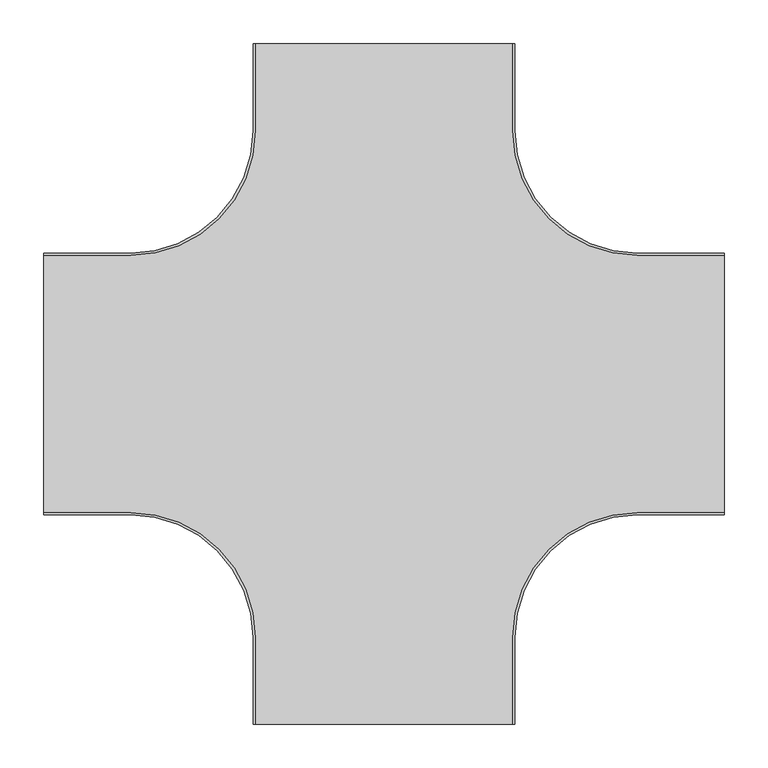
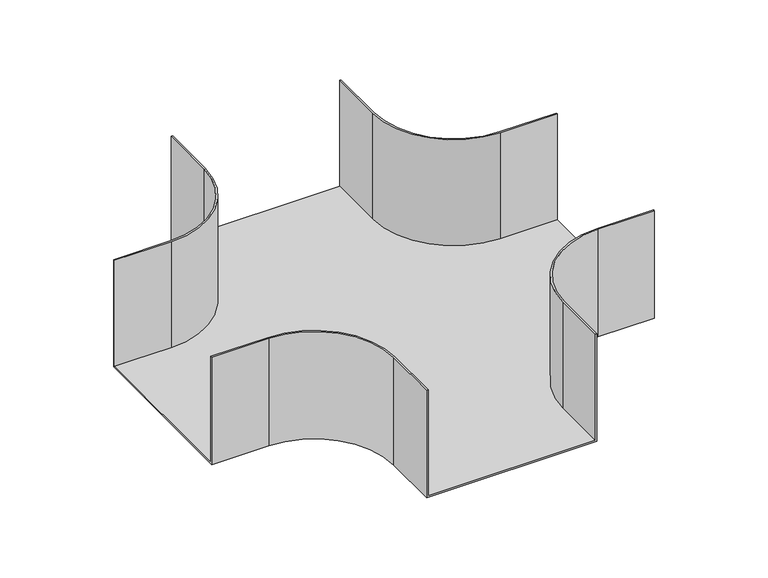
"""IFC4 building model written with IfcOpenShell, lengths in millimetres: cable carrier fitting geometry, BAKS_Cross-section_CZKZ : CZKZCH200."""

from ifc_helpers import new_model, si_unit, frame, origin, place, context, project, spatial, polyline, circle_curve, source, transform, mapped, element, save
from ifc_brep_helpers import plane_surface, cylinder_surface, revolved_surface, advanced_brep


def cable_carrier_fitting_6664680e(model_context):
    return source(origin(), model_context, "Body", "AdvancedBrep", [
        advanced_brep(
        [(-150.0, -290.0, 100.0), (-150.0, -390.0, 100.0), (-147.46, -390.0, 100.0), (-147.46, -290.0, 100.0), (-290.0, -147.46, 100.0), (-390.0, -147.46, 100.0), (-390.0, -150.0, 100.0), (-290.0, -150.0, 100.0), (150.0, -290.0, 100.0), (290.0, -150.0, 100.0), (390.0, -150.0, 100.0), (390.0, -147.46, 100.0), (290.0, -147.46, 100.0), (147.46, -290.0, 100.0), (147.46, -390.0, 100.0), (150.0, -390.0, 100.0), (-290.0, 150.0, 100.0), (-390.0, 150.0, 100.0), (-390.0, 147.46, 100.0), (-290.0, 147.46, 100.0), (-147.46, 290.0, 100.0), (-147.46, 390.0, 100.0), (-150.0, 390.0, 100.0), (-150.0, 290.0, 100.0), (147.46, 290.0, 100.0), (290.0, 147.46, 100.0), (390.0, 147.46, 100.0), (390.0, 150.0, 100.0), (290.0, 150.0, 100.0), (150.0, 290.0, 100.0), (150.0, 390.0, 100.0), (147.46, 390.0, 100.0), (-150.0, -290.0, -100.0), (-290.0, -150.0, -100.0), (-390.0, -150.0, -100.0), (-390.0, 150.0, -100.0), (-290.0, 150.0, -100.0), (-150.0, 290.0, -100.0), (-150.0, 390.0, -100.0), (150.0, 390.0, -100.0), (150.0, 290.0, -100.0), (290.0, 150.0, -100.0), (390.0, 150.0, -100.0), (390.0, -150.0, -100.0), (290.0, -150.0, -100.0), (150.0, -290.0, -100.0), (150.0, -390.0, -100.0), (-150.0, -390.0, -100.0), (-150.0, -290.0, -97.46), (147.46, -390.0, -97.46), (-147.46, -390.0, -97.46), (-147.46, -290.0, -97.46), (-290.0, -147.46, -97.46), (-390.0, -147.46, -97.46), (-390.0, 147.46, -97.46), (-290.0, -150.0, -97.46), (150.0, -290.0, -97.46), (290.0, -150.0, -97.46), (390.0, 147.46, -97.46), (390.0, -147.46, -97.46), (290.0, -147.46, -97.46), (147.46, -290.0, -97.46), (290.0, 147.46, -97.46), (147.46, 290.0, -97.46), (147.46, 390.0, -97.46), (-147.46, 390.0, -97.46), (-147.46, 290.0, -97.46), (-290.0, 147.46, -97.46), (-290.0, 150.0, -97.46), (-150.0, 290.0, -97.46), (290.0, 150.0, -97.46), (150.0, 290.0, -97.46)],
        [
            (0, 1),
            (1, 2),
            (2, 3),
            (3, 4, circle_curve(frame((-290.0, -290.0, 100.0), z_axis=(0.0, 0.0, 1.0), x_axis=(1.0, 0.0, 0.0)), 142.54)),
            (4, 5),
            (5, 6),
            (6, 7),
            (7, 0, circle_curve(frame((-290.0, -290.0, 100.0), z_axis=(0.0, 0.0, -1.0), x_axis=(1.0, 0.0, 0.0)), 140.0)),
            (8, 9, circle_curve(frame((290.0, -290.0, 100.0), z_axis=(0.0, 0.0, -1.0), x_axis=(1.0, 0.0, 0.0)), 140.0)),
            (9, 10),
            (10, 11),
            (11, 12),
            (12, 13, circle_curve(frame((290.0, -290.0, 100.0), z_axis=(0.0, 0.0, 1.0), x_axis=(1.0, 0.0, 0.0)), 142.54)),
            (13, 14),
            (14, 15),
            (15, 8),
            (16, 17),
            (17, 18),
            (18, 19),
            (19, 20, circle_curve(frame((-290.0, 290.0, 100.0), z_axis=(0.0, 0.0, 1.0), x_axis=(1.0, 0.0, 0.0)), 142.54)),
            (20, 21),
            (21, 22),
            (22, 23),
            (23, 16, circle_curve(frame((-290.0, 290.0, 100.0), z_axis=(0.0, 0.0, -1.0), x_axis=(1.0, 0.0, 0.0)), 140.0)),
            (24, 25, circle_curve(frame((290.0, 290.0, 100.0), z_axis=(0.0, 0.0, 1.0), x_axis=(1.0, 0.0, 0.0)), 142.54)),
            (25, 26),
            (26, 27),
            (27, 28),
            (28, 29, circle_curve(frame((290.0, 290.0, 100.0), z_axis=(0.0, 0.0, -1.0), x_axis=(1.0, 0.0, 0.0)), 140.0)),
            (29, 30),
            (30, 31),
            (31, 24),
            (32, 33, circle_curve(frame((-290.0, -290.0, -100.0), z_axis=(0.0, 0.0, 1.0), x_axis=(1.0, 0.0, 0.0)), 140.0)),
            (33, 34),
            (34, 35),
            (35, 36),
            (36, 37, circle_curve(frame((-290.0, 290.0, -100.0), z_axis=(0.0, 0.0, 1.0), x_axis=(1.0, 0.0, 0.0)), 140.0)),
            (37, 38),
            (38, 39),
            (39, 40),
            (40, 41, circle_curve(frame((290.0, 290.0, -100.0), z_axis=(0.0, 0.0, 1.0), x_axis=(1.0, 0.0, 0.0)), 140.0)),
            (41, 42),
            (42, 43),
            (43, 44),
            (44, 45, circle_curve(frame((290.0, -290.0, -100.0), z_axis=(0.0, 0.0, 1.0), x_axis=(1.0, 0.0, 0.0)), 140.0)),
            (45, 46),
            (46, 47),
            (47, 32),
            (47, 1),
            (0, 48),
            (48, 32),
            (46, 15),
            (14, 49),
            (49, 50),
            (50, 2),
            (50, 51),
            (51, 3),
            (51, 52, circle_curve(frame((-290.0, -290.0, -97.46), z_axis=(0.0, 0.0, 1.0), x_axis=(1.0, 0.0, 0.0)), 142.54)),
            (52, 4),
            (52, 53),
            (53, 5),
            (53, 54),
            (54, 18),
            (17, 35),
            (34, 6),
            (33, 55),
            (55, 7),
            (8, 56),
            (56, 45),
            (44, 57),
            (57, 9),
            (43, 10),
            (42, 27),
            (26, 58),
            (58, 59),
            (59, 11),
            (59, 60),
            (60, 12),
            (60, 61, circle_curve(frame((290.0, -290.0, -97.46), z_axis=(0.0, 0.0, 1.0), x_axis=(1.0, 0.0, 0.0)), 142.54)),
            (61, 13),
            (61, 49),
            (58, 62),
            (62, 63, circle_curve(frame((290.0, 290.0, -97.46), z_axis=(0.0, 0.0, -1.0), x_axis=(1.0, 0.0, 0.0)), 142.54)),
            (63, 64),
            (64, 65),
            (65, 66),
            (66, 67, circle_curve(frame((-290.0, 290.0, -97.46), z_axis=(0.0, 0.0, -1.0), x_axis=(1.0, 0.0, 0.0)), 142.54)),
            (67, 54),
            (16, 68),
            (68, 36),
            (67, 19),
            (66, 20),
            (65, 21),
            (64, 31),
            (30, 39),
            (38, 22),
            (37, 69),
            (69, 23),
            (24, 63),
            (62, 25),
            (41, 70),
            (70, 28),
            (40, 71),
            (71, 29),
        ],
        [
            plane_surface(frame((-150.0, -290.0, 100.0), z_axis=(0.0, 0.0, 1.0), x_axis=(0.0, -1.0, 0.0))),
            plane_surface(frame((-150.0, -290.0, -100.0), z_axis=(0.0, 0.0, -1.0), x_axis=(0.0, 1.0, 0.0))),
            plane_surface(frame((-150.0, -290.0, 100.0), z_axis=(-1.0, 0.0, 0.0), x_axis=(0.0, 0.0, -1.0))),
            plane_surface(frame((-150.0, -390.0, 100.0), z_axis=(0.0, -1.0, 0.0), x_axis=(0.0, 0.0, -1.0))),
            plane_surface(frame((-147.46, -390.0, 100.0), z_axis=(1.0, 0.0, 0.0), x_axis=(0.0, 0.0, -1.0))),
            cylinder_surface(frame((-290.0, -290.0, -100.0), z_axis=(0.0, 0.0, 1.0), x_axis=(1.0, 0.0, 0.0)), 142.54),
            plane_surface(frame((-290.0, -147.46, 100.0), z_axis=(0.0, 1.0, 0.0), x_axis=(0.0, 0.0, -1.0))),
            plane_surface(frame((-390.0, -147.46, 100.0), z_axis=(-1.0, 0.0, 0.0), x_axis=(0.0, 0.0, -1.0))),
            plane_surface(frame((-390.0, -150.0, 100.0), z_axis=(0.0, -1.0, 0.0), x_axis=(0.0, 0.0, -1.0))),
            revolved_surface(polyline([(-150.0, -290.0, -100.0), (-150.0, -290.0, 100.0)]), (-290.0, -290.0, -100.0), (0.0, 0.0, -1.0)),
            revolved_surface(polyline([(430.0, -290.0, -100.0), (430.0, -290.0, 100.0)]), (290.0, -290.0, 0.0), (0.0, 0.0, -1.0)),
            plane_surface(frame((290.0, -150.0, 100.0), z_axis=(0.0, -1.0, 0.0), x_axis=(0.0, 0.0, -1.0))),
            plane_surface(frame((390.0, -150.0, 100.0), z_axis=(1.0, 0.0, 0.0), x_axis=(0.0, 0.0, -1.0))),
            plane_surface(frame((390.0, -147.46, 100.0), z_axis=(0.0, 1.0, 0.0), x_axis=(0.0, 0.0, -1.0))),
            cylinder_surface(frame((290.0, -290.0, 0.0), z_axis=(0.0, 0.0, 1.0), x_axis=(1.0, 0.0, 0.0)), 142.54),
            plane_surface(frame((147.46, -290.0, 100.0), z_axis=(-1.0, 0.0, 0.0), x_axis=(0.0, 0.0, -1.0))),
            plane_surface(frame((150.0, -390.0, 100.0), z_axis=(1.0, 0.0, 0.0), x_axis=(0.0, 0.0, -1.0))),
            plane_surface(frame((-150.0, -290.0, -97.46), z_axis=(0.0, 0.0, 1.0), x_axis=(0.0, -1.0, 0.0))),
            plane_surface(frame((-290.0, 150.0, 100.0), z_axis=(0.0, 1.0, 0.0), x_axis=(0.0, 0.0, -1.0))),
            plane_surface(frame((-390.0, 147.46, 100.0), z_axis=(0.0, -1.0, 0.0), x_axis=(0.0, 0.0, -1.0))),
            cylinder_surface(frame((-290.0, 290.0, 0.0), z_axis=(0.0, 0.0, 1.0), x_axis=(1.0, 0.0, 0.0)), 142.54),
            plane_surface(frame((-147.46, 290.0, 100.0), z_axis=(1.0, 0.0, 0.0), x_axis=(0.0, 0.0, -1.0))),
            plane_surface(frame((-147.46, 390.0, 100.0), z_axis=(0.0, 1.0, 0.0), x_axis=(0.0, 0.0, -1.0))),
            plane_surface(frame((-150.0, 390.0, 100.0), z_axis=(-1.0, 0.0, 0.0), x_axis=(0.0, 0.0, -1.0))),
            revolved_surface(polyline([(-150.0, 290.0, -100.0), (-150.0, 290.0, 100.0)]), (-290.0, 290.0, 0.0), (0.0, 0.0, -1.0)),
            cylinder_surface(frame((290.0, 290.0, 0.0), z_axis=(0.0, 0.0, 1.0), x_axis=(1.0, 0.0, 0.0)), 142.54),
            plane_surface(frame((290.0, 147.46, 100.0), z_axis=(0.0, -1.0, 0.0), x_axis=(0.0, 0.0, -1.0))),
            plane_surface(frame((390.0, 150.0, 100.0), z_axis=(0.0, 1.0, 0.0), x_axis=(0.0, 0.0, -1.0))),
            revolved_surface(polyline([(430.0, 290.0, -100.0), (430.0, 290.0, 100.0)]), (290.0, 290.0, 0.0), (0.0, 0.0, -1.0)),
            plane_surface(frame((150.0, 290.0, 100.0), z_axis=(1.0, 0.0, 0.0), x_axis=(0.0, 0.0, -1.0))),
            plane_surface(frame((147.46, 390.0, 100.0), z_axis=(-1.0, 0.0, 0.0), x_axis=(0.0, 0.0, -1.0))),
        ],
        [
            (0, [[1, 2, 3, 4, 5, 6, 7, 8]]),
            (0, [[9, 10, 11, 12, 13, 14, 15, 16]]),
            (0, [[17, 18, 19, 20, 21, 22, 23, 24]]),
            (0, [[25, 26, 27, 28, 29, 30, 31, 32]]),
            (1, [[33, 34, 35, 36, 37, 38, 39, 40, 41, 42, 43, 44, 45, 46, 47, 48]]),
            (2, [[49, -1, 50, 51, -48]]),
            (3, [[-2, -49, -47, 52, -15, 53, 54, 55]]),
            (4, [[-3, -55, 56, 57]]),
            (5, [[-4, -57, 58, 59]]),
            (6, [[-5, -59, 60, 61]]),
            (7, [[-6, -61, 62, 63, -18, 64, -35, 65]]),
            (8, [[-7, -65, -34, 66, 67]]),
            (9, [[-8, -67, -66, -33, -51, -50]]),
            (10, [[-9, 68, 69, -45, 70, 71]]),
            (11, [[72, -10, -71, -70, -44]]),
            (12, [[-11, -72, -43, 73, -27, 74, 75, 76]]),
            (13, [[-12, -76, 77, 78]]),
            (14, [[-13, -78, 79, 80]]),
            (15, [[-14, -80, 81, -53]]),
            (16, [[-16, -52, -46, -69, -68]]),
            (17, [[-54, -81, -79, -77, -75, 82, 83, 84, 85, 86, 87, 88, -62, -60, -58, -56]]),
            (18, [[-64, -17, 89, 90, -36]]),
            (19, [[-19, -63, -88, 91]]),
            (20, [[-20, -91, -87, 92]]),
            (21, [[-21, -92, -86, 93]]),
            (22, [[-22, -93, -85, 94, -31, 95, -39, 96]]),
            (23, [[-23, -96, -38, 97, 98]]),
            (24, [[-24, -98, -97, -37, -90, -89]]),
            (25, [[-25, 99, -83, 100]]),
            (26, [[-26, -100, -82, -74]]),
            (27, [[-28, -73, -42, 101, 102]]),
            (28, [[-29, -102, -101, -41, 103, 104]]),
            (29, [[-95, -30, -104, -103, -40]]),
            (30, [[-32, -94, -84, -99]]),
        ],
    ),
    ])


if __name__ == "__main__":
    model = new_model("IFC4")
    model_context = context("Model", 3, world=origin())
    ifc_project = project(units=[si_unit("LENGTHUNIT", "METRE", prefix="MILLI")], contexts=[model_context])
    site = spatial("IfcSite", under=ifc_project)
    building = spatial("IfcBuilding", under=site)
    placement = place(None, origin())
    cable_carrier_fitting_shape = cable_carrier_fitting_6664680e(model_context)
    element("IfcCableCarrierFitting", 1, ObjectType="BAKS_Cross-section_CZKZ : CZKZCH200", at=placement, inside=building, context=model_context, shape_type="MappedRepresentation", body=[
        mapped(cable_carrier_fitting_shape, transform((0.0, 0.0, 0.0), x_axis=(1.0, 0.0, 0.0), y_axis=(0.0, 1.0, 0.0), z_axis=(0.0, 0.0, 1.0))),
    ])
    save(model, "model.ifc")
